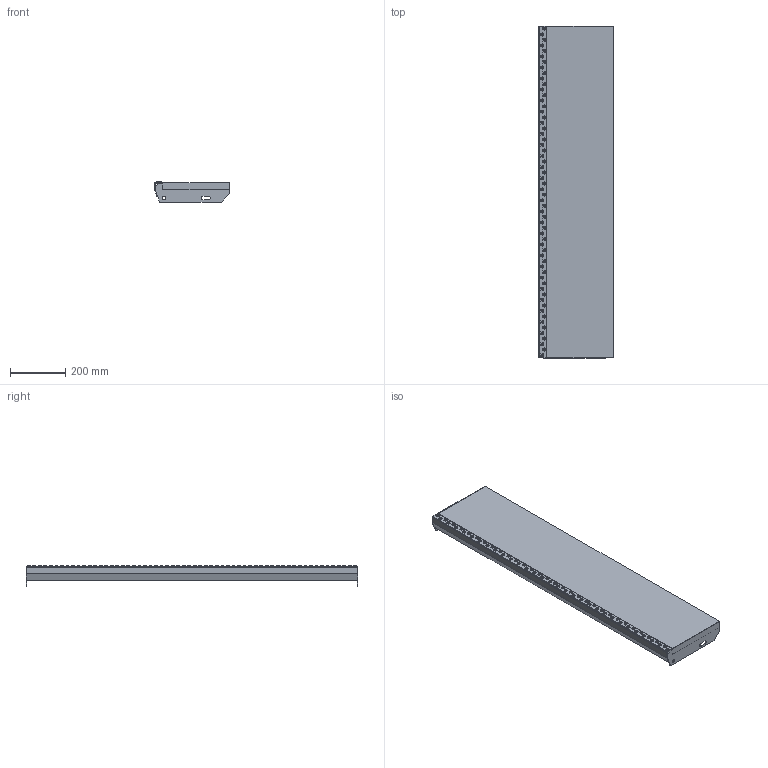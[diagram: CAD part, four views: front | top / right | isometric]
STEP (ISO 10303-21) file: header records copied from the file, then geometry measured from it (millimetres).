
FILE_DESCRIPTION(('Open CASCADE Model'),'2;1');
FILE_NAME('Open CASCADE Shape Model','2019-03-13T09:59:48',('Author'),( 'Open CASCADE'),'Open CASCADE STEP processor 7.2','Open CASCADE 7.2' ,'Unknown');
FILE_SCHEMA(('AUTOMOTIVE_DESIGN { 1 0 10303 214 1 1 1 1 }'));
Length unit declared in the file: millimetre
Products named in the file (1880): Open CASCADE STEP translator 7.2 1; Open CASCADE STEP translator 7.2 2; Open CASCADE STEP translator 7.2 3; Open CASCADE STEP translator 7.2 3.1; Open CASCADE STEP translator 7.2 3.2; Open CASCADE STEP translator 7.2 3.3; Open CASCADE STEP translator 7.2 3.4; Open CASCADE STEP translator 7.2 3.5; Open CASCADE STEP translator 7.2 3.6; Open CASCADE STEP translator 7.2 3.7; Open CASCADE STEP translator 7.2 3.8; Open CASCADE STEP translator 7.2 3.9; Open CASCADE STEP translator 7.2 3.10; Open CASCADE STEP translator 7.2 3.11; Open CASCADE STEP translator 7.2 3.12; Open CASCADE STEP translator 7.2 3.13; Open CASCADE STEP translator 7.2 3.14; Open CASCADE STEP translator 7.2 3.15; Open CASCADE STEP translator 7.2 3.16; Open CASCADE STEP translator 7.2 3.17; Open CASCADE STEP translator 7.2 3.18; Open CASCADE STEP translator 7.2 3.19; Open CASCADE STEP translator 7.2 3.20; Open CASCADE STEP translator 7.2 3.21; Open CASCADE STEP translator 7.2 3.22; Open CASCADE STEP translator 7.2 3.23; Open CASCADE STEP translator 7.2 3.24; Open CASCADE STEP translator 7.2 3.25; Open CASCADE STEP translator 7.2 3.26; Open CASCADE STEP translator 7.2 3.27; Open CASCADE STEP translator 7.2 3.28; Open CASCADE STEP translator 7.2 3.29; Open CASCADE STEP translator 7.2 3.30; Open CASCADE STEP translator 7.2 3.31; Open CASCADE STEP translator 7.2 3.32; Open CASCADE STEP translator 7.2 3.33; Open CASCADE STEP translator 7.2 3.34; Open CASCADE STEP translator 7.2 3.35; Open CASCADE STEP translator 7.2 3.36; Open CASCADE STEP translator 7.2 3.37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
Assembly tree (1876 placements, depth 2):
  Open CASCADE STEP translator 7.2 1
  Open CASCADE STEP translator 7.2 2
  Open CASCADE STEP translator 7.2 3
    Open CASCADE STEP translator 7.2 3.1
    Open CASCADE STEP translator 7.2 3.2
    Open CASCADE STEP translator 7.2 3.3
    Open CASCADE STEP translator 7.2 3.4
    Open CASCADE STEP translator 7.2 3.5
    Open CASCADE STEP translator 7.2 3.6
    Open CASCADE STEP translator 7.2 3.7
    Open CASCADE STEP translator 7.2 3.8
    Open CASCADE STEP translator 7.2 3.9
    Open CASCADE STEP translator 7.2 3.10
    Open CASCADE STEP translator 7.2 3.11
    Open CASCADE STEP translator 7.2 3.12
    Open CASCADE STEP translator 7.2 3.13
    Open CASCADE STEP translator 7.2 3.14
    Open CASCADE STEP translator 7.2 3.15
    Open CASCADE STEP translator 7.2 3.16
    Open CASCADE STEP translator 7.2 3.17
    Open CASCADE STEP translator 7.2 3.18
    Open CASCADE STEP translator 7.2 3.19
    Open CASCADE STEP translator 7.2 3.20
    Open CASCADE STEP translator 7.2 3.21
    Open CASCADE STEP translator 7.2 3.22
    Open CASCADE STEP translator 7.2 3.23
    Open CASCADE STEP translator 7.2 3.24
    Open CASCADE STEP translator 7.2 3.25
    Open CASCADE STEP translator 7.2 3.26
    Open CASCADE STEP translator 7.2 3.27
    Open CASCADE STEP translator 7.2 3.28
    Open CASCADE STEP translator 7.2 3.29
    Open CASCADE STEP translator 7.2 3.30
    Open CASCADE STEP translator 7.2 3.31
    Open CASCADE STEP translator 7.2 3.32
    Open CASCADE STEP translator 7.2 3.33
    Open CASCADE STEP translator 7.2 3.34
    Open CASCADE STEP translator 7.2 3.35
    Open CASCADE STEP translator 7.2 3.36
    Open CASCADE STEP translator 7.2 3.37
    Open CASCADE STEP translator 7.2 3.38
    Open CASCADE STEP translator 7.2 3.39
    Open CASCADE STEP translator 7.2 3.40
    Open CASCADE STEP translator 7.2 3.41
    Open CASCADE STEP translator 7.2 3.42
    Open CASCADE STEP translator 7.2 3.43
    Open CASCADE STEP translator 7.2 3.44
    Open CASCADE STEP translator 7.2 3.45
    Open CASCADE STEP translator 7.2 3.46
    Open CASCADE STEP translator 7.2 3.47
    Open CASCADE STEP translator 7.2 3.48
    Open CASCADE STEP translator 7.2 3.49
    Open CASCADE STEP translator 7.2 3.50
    Open CASCADE STEP translator 7.2 3.51
    Open CASCADE STEP translator 7.2 3.52
    Open CASCADE STEP translator 7.2 3.53
    Open CASCADE STEP translator 7.2 3.54
    Open CASCADE STEP translator 7.2 3.55
    Open CASCADE STEP translator 7.2 3.56
    Open CASCADE STEP translator 7.2 3.57
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Bounding box: 271 x 1200 x 73 mm (x, y, z)
Volume: 7312851.2 mm3; surface area: 915878.3 mm2
Topology: 3 solids, 1879 shells, 1914 faces, 10260 edges, 10228 vertices
Faces by surface type: plane 1908, cylinder 6
Full cylindrical faces by diameter (mm): 13 x2
Entity records: 208032 total; most frequent: CARTESIAN_POINT 34731, DIRECTION 28174, LINE 20568, VECTOR 20568, ORIENTED_EDGE 10356, PCURVE 10356, DEFINITIONAL_REPRESENTATION 10356, EDGE_CURVE 10260
